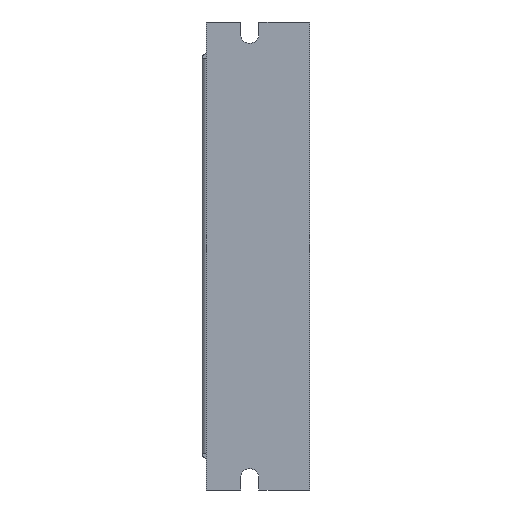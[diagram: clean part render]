
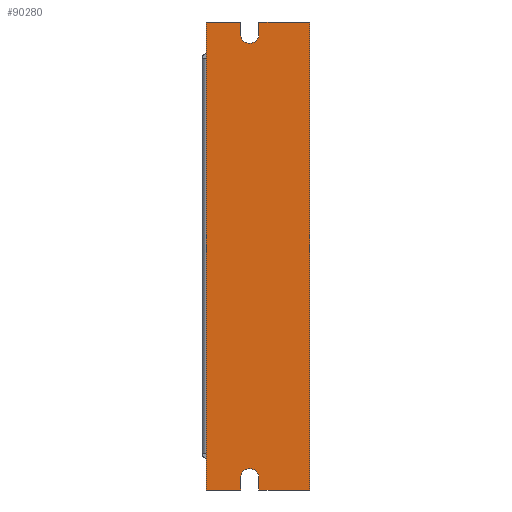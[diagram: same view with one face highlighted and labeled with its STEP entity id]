
A CAD part, left-side view. The second image highlights one B-rep face of the part: STEP entity #90280.
In plain terms, the highlighted planar face has unit normal (-1, 0, 0).
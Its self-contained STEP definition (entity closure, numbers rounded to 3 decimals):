
#10938 = EDGE_CURVE ( 'NONE', #168024, #176126, #75260, .T. ) ;
#10942 = EDGE_CURVE ( 'NONE', #176077, #176121, #75263, .T. ) ;
#10945 = EDGE_CURVE ( 'NONE', #176082, #176077, #75272, .T. ) ;
#10948 = EDGE_CURVE ( 'NONE', #176101, #176082, #75278, .T. ) ;
#10951 = EDGE_CURVE ( 'NONE', #176093, #176107, #75280, .T. ) ;
#10954 = EDGE_CURVE ( 'NONE', #176080, #176113, #75286, .T. ) ;
#10957 = EDGE_CURVE ( 'NONE', #176087, #176080, #75293, .T. ) ;
#10961 = EDGE_CURVE ( 'NONE', #176127, #176087, #75298, .T. ) ;
#10988 = EDGE_CURVE ( 'NONE', #176101, #176093, #75343, .T. ) ;
#10997 = EDGE_CURVE ( 'NONE', #176113, #176107, #75360, .T. ) ;
#11040 = EDGE_CURVE ( 'NONE', #168024, #176121, #75437, .T. ) ;
#11049 = EDGE_CURVE ( 'NONE', #176126, #176127, #75454, .T. ) ;
#31456 = AXIS2_PLACEMENT_3D ( 'NONE', #79081, #79084, #79086 ) ;
#31457 = AXIS2_PLACEMENT_3D ( 'NONE', #79116, #79119, #79120 ) ;
#37052 = EDGE_LOOP ( 'NONE', ( #162235, #162236, #162237, #162238, #162239, #162240, #162241, #162242, #162243, #162244, #162245, #162246 ) ) ;
#75260 = LINE ( 'NONE', #79051, #75268 ) ;
#75263 = LINE ( 'NONE', #79050, #75275 ) ;
#75268 = VECTOR ( 'NONE', #78959, 1000. ) ;
#75272 = CIRCLE ( 'NONE', #31456, 2.25 ) ;
#75275 = VECTOR ( 'NONE', #79066, 1000. ) ;
#75278 = LINE ( 'NONE', #79063, #75283 ) ;
#75280 = LINE ( 'NONE', #79091, #75290 ) ;
#75283 = VECTOR ( 'NONE', #78979, 1000. ) ;
#75286 = LINE ( 'NONE', #79099, #75295 ) ;
#75290 = VECTOR ( 'NONE', #79096, 1000. ) ;
#75293 = CIRCLE ( 'NONE', #31457, 2.25 ) ;
#75295 = VECTOR ( 'NONE', #79103, 1000. ) ;
#75298 = LINE ( 'NONE', #79073, #75304 ) ;
#75304 = VECTOR ( 'NONE', #79078, 1000. ) ;
#75343 = LINE ( 'NONE', #79178, #75351 ) ;
#75351 = VECTOR ( 'NONE', #79182, 1000. ) ;
#75360 = LINE ( 'NONE', #79198, #75369 ) ;
#75369 = VECTOR ( 'NONE', #79202, 1000. ) ;
#75437 = LINE ( 'NONE', #79292, #75445 ) ;
#75445 = VECTOR ( 'NONE', #79297, 1000. ) ;
#75454 = LINE ( 'NONE', #79312, #75463 ) ;
#75463 = VECTOR ( 'NONE', #79316, 1000. ) ;
#78959 = DIRECTION ( 'NONE',  ( 0., 0., -1. ) ) ;
#78979 = DIRECTION ( 'NONE',  ( 0., 0., -1. ) ) ;
#79050 = CARTESIAN_POINT ( 'NONE',  ( 0., 17., 57.5 ) ) ;
#79051 = CARTESIAN_POINT ( 'NONE',  ( 0., 25.4, 57.5 ) ) ;
#79063 = CARTESIAN_POINT ( 'NONE',  ( 0., 12.5, 54.5 ) ) ;
#79066 = DIRECTION ( 'NONE',  ( 0., 0., 1. ) ) ;
#79073 = CARTESIAN_POINT ( 'NONE',  ( 0., 17., -57.5 ) ) ;
#79078 = DIRECTION ( 'NONE',  ( 0., 0., 1. ) ) ;
#79081 = CARTESIAN_POINT ( 'NONE',  ( 0., 14.75, 54.5 ) ) ;
#79084 = DIRECTION ( 'NONE',  ( 1., 0., 0. ) ) ;
#79086 = DIRECTION ( 'NONE',  ( 0., -1., 0. ) ) ;
#79091 = CARTESIAN_POINT ( 'NONE',  ( 0., 0., 57.5 ) ) ;
#79096 = DIRECTION ( 'NONE',  ( 0., 0., -1. ) ) ;
#79099 = CARTESIAN_POINT ( 'NONE',  ( 0., 12.5, -54.5 ) ) ;
#79103 = DIRECTION ( 'NONE',  ( 0., 0., -1. ) ) ;
#79116 = CARTESIAN_POINT ( 'NONE',  ( 0., 14.75, -54.5 ) ) ;
#79119 = DIRECTION ( 'NONE',  ( 1., 0., 0. ) ) ;
#79120 = DIRECTION ( 'NONE',  ( 0., 1., 0. ) ) ;
#79178 = CARTESIAN_POINT ( 'NONE',  ( 0., 0., 57.5 ) ) ;
#79182 = DIRECTION ( 'NONE',  ( 0., -1., 0. ) ) ;
#79198 = CARTESIAN_POINT ( 'NONE',  ( 0., 0., -57.5 ) ) ;
#79202 = DIRECTION ( 'NONE',  ( 0., -1., 0. ) ) ;
#79292 = CARTESIAN_POINT ( 'NONE',  ( 0., 0., 57.5 ) ) ;
#79297 = DIRECTION ( 'NONE',  ( 0., -1., 0. ) ) ;
#79312 = CARTESIAN_POINT ( 'NONE',  ( 0., 0., -57.5 ) ) ;
#79316 = DIRECTION ( 'NONE',  ( 0., -1., 0. ) ) ;
#90280 = ADVANCED_FACE ( 'NONE', ( #133698 ), #139053, .F. ) ;
#122895 = CARTESIAN_POINT ( 'NONE',  ( 0., 25.4, 57.5 ) ) ;
#133698 = FACE_OUTER_BOUND ( 'NONE', #37052, .T. ) ;
#136236 = AXIS2_PLACEMENT_3D ( 'NONE', #139046, #139054, #139055 ) ;
#139046 = CARTESIAN_POINT ( 'NONE',  ( 0., 0., 57.5 ) ) ;
#139053 = PLANE ( 'NONE',  #136236 ) ;
#139054 = DIRECTION ( 'NONE',  ( 1., 0., 0. ) ) ;
#139055 = DIRECTION ( 'NONE',  ( 0., 0., -1. ) ) ;
#162235 = ORIENTED_EDGE ( 'NONE', *, *, #11049, .T. ) ;
#162236 = ORIENTED_EDGE ( 'NONE', *, *, #10961, .T. ) ;
#162237 = ORIENTED_EDGE ( 'NONE', *, *, #10957, .T. ) ;
#162238 = ORIENTED_EDGE ( 'NONE', *, *, #10954, .T. ) ;
#162239 = ORIENTED_EDGE ( 'NONE', *, *, #10997, .T. ) ;
#162240 = ORIENTED_EDGE ( 'NONE', *, *, #10951, .F. ) ;
#162241 = ORIENTED_EDGE ( 'NONE', *, *, #10988, .F. ) ;
#162242 = ORIENTED_EDGE ( 'NONE', *, *, #10948, .T. ) ;
#162243 = ORIENTED_EDGE ( 'NONE', *, *, #10945, .T. ) ;
#162244 = ORIENTED_EDGE ( 'NONE', *, *, #10942, .T. ) ;
#162245 = ORIENTED_EDGE ( 'NONE', *, *, #11040, .F. ) ;
#162246 = ORIENTED_EDGE ( 'NONE', *, *, #10938, .T. ) ;
#168024 = VERTEX_POINT ( 'NONE', #122895 ) ;
#176077 = VERTEX_POINT ( 'NONE', #182945 ) ;
#176080 = VERTEX_POINT ( 'NONE', #182947 ) ;
#176082 = VERTEX_POINT ( 'NONE', #182944 ) ;
#176087 = VERTEX_POINT ( 'NONE', #182948 ) ;
#176093 = VERTEX_POINT ( 'NONE', #182951 ) ;
#176101 = VERTEX_POINT ( 'NONE', #182961 ) ;
#176107 = VERTEX_POINT ( 'NONE', #182966 ) ;
#176113 = VERTEX_POINT ( 'NONE', #182979 ) ;
#176121 = VERTEX_POINT ( 'NONE', #182981 ) ;
#176126 = VERTEX_POINT ( 'NONE', #182987 ) ;
#176127 = VERTEX_POINT ( 'NONE', #182994 ) ;
#182944 = CARTESIAN_POINT ( 'NONE',  ( 0., 12.5, 54.5 ) ) ;
#182945 = CARTESIAN_POINT ( 'NONE',  ( 0., 17., 54.5 ) ) ;
#182947 = CARTESIAN_POINT ( 'NONE',  ( 0., 12.5, -54.5 ) ) ;
#182948 = CARTESIAN_POINT ( 'NONE',  ( 0., 17., -54.5 ) ) ;
#182951 = CARTESIAN_POINT ( 'NONE',  ( 0., 0., 57.5 ) ) ;
#182961 = CARTESIAN_POINT ( 'NONE',  ( 0., 12.5, 57.5 ) ) ;
#182966 = CARTESIAN_POINT ( 'NONE',  ( 0., 0., -57.5 ) ) ;
#182979 = CARTESIAN_POINT ( 'NONE',  ( 0., 12.5, -57.5 ) ) ;
#182981 = CARTESIAN_POINT ( 'NONE',  ( 0., 17., 57.5 ) ) ;
#182987 = CARTESIAN_POINT ( 'NONE',  ( 0., 25.4, -57.5 ) ) ;
#182994 = CARTESIAN_POINT ( 'NONE',  ( 0., 17., -57.5 ) ) ;
